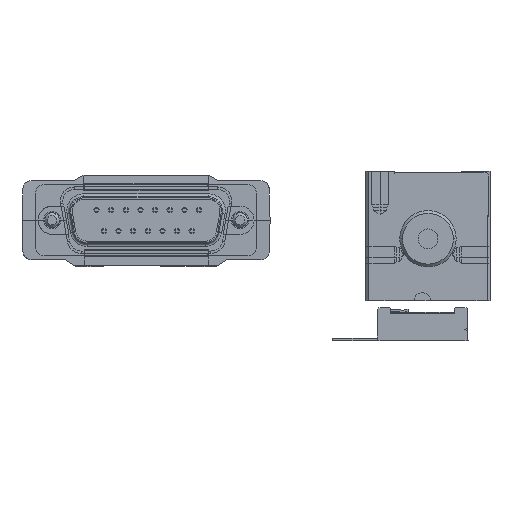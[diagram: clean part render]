
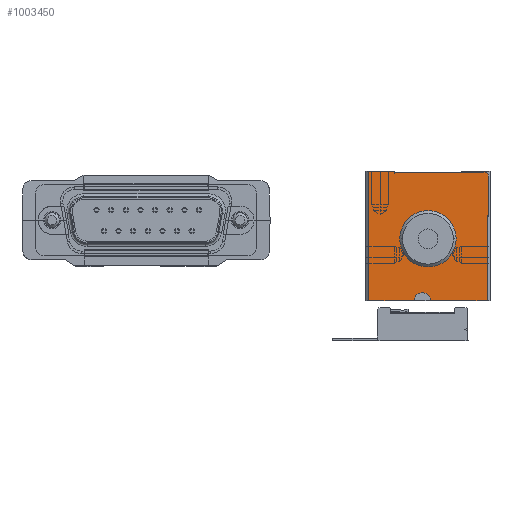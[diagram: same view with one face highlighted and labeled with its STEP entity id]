
A CAD part, front view. The second image highlights one B-rep face of the part: STEP entity #1003450.
In plain terms, the highlighted planar face has unit normal (0, -1, 0) as drawn and (1, 0, 0) by its records, which use the part's own axes.
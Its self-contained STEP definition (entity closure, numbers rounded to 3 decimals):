
#994770=CARTESIAN_POINT('',(40.,22.,0.));
#994780=DIRECTION('',(0.,-1.,0.));
#994790=VECTOR('',#994780,1.);
#994800=LINE('',#994770,#994790);
#994810=CARTESIAN_POINT('',(40.,5.,0.));
#994820=VERTEX_POINT('',#994810);
#994830=CARTESIAN_POINT('',(40.,0.5,0.));
#994840=VERTEX_POINT('',#994830);
#994850=EDGE_CURVE('',#994820,#994840,#994800,.T.);
#997720=CARTESIAN_POINT('',(40.,0.5,-23.));
#997730=VERTEX_POINT('',#997720);
#997760=CARTESIAN_POINT('',(40.,0.,-23.));
#997770=DIRECTION('',(0.,1.,0.));
#997780=VECTOR('',#997770,1.);
#997790=LINE('',#997760,#997780);
#997800=CARTESIAN_POINT('',(40.,8.6,-23.));
#997810=VERTEX_POINT('',#997800);
#997820=EDGE_CURVE('',#997730,#997810,#997790,.T.);
#998040=CARTESIAN_POINT('',(40.,11.4,-23.));
#998050=VERTEX_POINT('',#998040);
#998080=CARTESIAN_POINT('',(40.,21.5,-23.));
#998090=VERTEX_POINT('',#998080);
#998100=EDGE_CURVE('',#998050,#998090,#997790,.T.);
#1000020=CARTESIAN_POINT('',(40.,11.4,0.));
#1000030=DIRECTION('',(0.,0.,1.));
#1000040=VECTOR('',#1000030,1.);
#1000050=LINE('',#1000020,#1000040);
#1000060=CARTESIAN_POINT('',(40.,11.4,-22.8));
#1000070=VERTEX_POINT('',#1000060);
#1000080=EDGE_CURVE('',#998050,#1000070,#1000050,.T.);
#1000750=CARTESIAN_POINT('',(40.,9.8,-22.8));
#1000760=DIRECTION('',(-1.,0.,0.));
#1000770=DIRECTION('',(0.,1.,0.));
#1000780=AXIS2_PLACEMENT_3D('',#1000750,#1000760,#1000770);
#1000790=CIRCLE('',#1000780,1.2);
#1000800=CARTESIAN_POINT('',(40.,8.6,-22.8));
#1000810=VERTEX_POINT('',#1000800);
#1000820=CARTESIAN_POINT('',(40.,9.8,-21.6));
#1000830=VERTEX_POINT('',#1000820);
#1000840=EDGE_CURVE('',#1000810,#1000830,#1000790,.T.);
#1001070=CARTESIAN_POINT('',(40.,0.,-21.6));
#1001080=DIRECTION('',(0.,-1.,0.));
#1001090=VECTOR('',#1001080,1.);
#1001100=LINE('',#1001070,#1001090);
#1001110=CARTESIAN_POINT('',(40.,10.2,-21.6));
#1001120=VERTEX_POINT('',#1001110);
#1001130=EDGE_CURVE('',#1001120,#1000830,#1001100,.T.);
#1001330=CARTESIAN_POINT('',(40.,10.2,-22.8));
#1001340=DIRECTION('',(-1.,0.,0.));
#1001350=DIRECTION('',(0.,1.,0.));
#1001360=AXIS2_PLACEMENT_3D('',#1001330,#1001340,#1001350);
#1001370=CIRCLE('',#1001360,1.2);
#1001380=EDGE_CURVE('',#1001120,#1000070,#1001370,.T.);
#1001510=CARTESIAN_POINT('',(40.,8.6,0.));
#1001520=DIRECTION('',(0.,0.,-1.));
#1001530=VECTOR('',#1001520,1.);
#1001540=LINE('',#1001510,#1001530);
#1001550=EDGE_CURVE('',#1000810,#997810,#1001540,.T.);
#1001660=CARTESIAN_POINT('',(40.,5.846,-7.9));
#1001670=DIRECTION('',(0.,-1.,0.));
#1001680=VECTOR('',#1001670,1.);
#1001690=LINE('',#1001660,#1001680);
#1001700=CARTESIAN_POINT('',(40.,21.8,-7.9));
#1001710=VERTEX_POINT('',#1001700);
#1001720=CARTESIAN_POINT('',(40.,21.5,-7.9));
#1001730=VERTEX_POINT('',#1001720);
#1001740=EDGE_CURVE('',#1001710,#1001730,#1001690,.T.);
#1002470=CARTESIAN_POINT('',(40.,0.1,-0.8))
;
#1002480=DIRECTION('',(1.,-0.,0.));
#1002490=DIRECTION('',(0.,0.,-1.));
#1002500=AXIS2_PLACEMENT_3D('',#1002470,#1002480,#1002490);
#1002510=PLANE('',#1002500);
#1002520=CARTESIAN_POINT('',(40.,20.9,-1.1));
#1002530=DIRECTION('',(1.,0.,0.));
#1002540=DIRECTION('',(0.,-1.,0.));
#1002550=AXIS2_PLACEMENT_3D('',#1002520,#1002530,#1002540);
#1002560=CIRCLE('',#1002550,0.9);
#1002570=CARTESIAN_POINT('',(40.,21.8,-1.1));
#1002580=VERTEX_POINT('',#1002570);
#1002590=CARTESIAN_POINT('',(40.,20.9,-0.2));
#1002600=VERTEX_POINT('',#1002590);
#1002610=EDGE_CURVE('',#1002580,#1002600,#1002560,.T.);
#1002620=ORIENTED_EDGE('',*,*,#1002610,.T.);
#1002630=CARTESIAN_POINT('',(40.,21.8,-0.8));
#1002640=DIRECTION('',(0.,0.,1.));
#1002650=VECTOR('',#1002640,1.);
#1002660=LINE('',#1002630,#1002650);
#1002670=EDGE_CURVE('',#1001710,#1002580,#1002660,.T.);
#1002680=ORIENTED_EDGE('',*,*,#1002670,.T.);
#1002690=ORIENTED_EDGE('',*,*,#1001740,.F.);
#1002700=CARTESIAN_POINT('',(40.,21.5,0.));
#1002710=DIRECTION('',(0.,0.,1.));
#1002720=VECTOR('',#1002710,1.);
#1002730=LINE('',#1002700,#1002720);
#1002740=CARTESIAN_POINT('',(40.,21.5,-8.));
#1002750=VERTEX_POINT('',#1002740);
#1002760=EDGE_CURVE('',#1002750,#1001730,#1002730,.T.);
#1002770=ORIENTED_EDGE('',*,*,#1002760,.T.);
#1002780=CARTESIAN_POINT('',(40.,21.5,-15.5));
#1002790=DIRECTION('',(0.,0.,-1.));
#1002800=VECTOR('',#1002790,1.);
#1002810=LINE('',#1002780,#1002800);
#1002820=EDGE_CURVE('',#1002750,#998090,#1002810,.T.);
#1002830=ORIENTED_EDGE('',*,*,#1002820,.F.);
#1002840=ORIENTED_EDGE('',*,*,#998100,.T.);
#1002850=ORIENTED_EDGE('',*,*,#1000080,.F.);
#1002860=ORIENTED_EDGE('',*,*,#1001380,.T.);
#1002870=ORIENTED_EDGE('',*,*,#1001130,.F.);
#1002880=ORIENTED_EDGE('',*,*,#1000840,.T.);
#1002890=ORIENTED_EDGE('',*,*,#1001550,.F.);
#1002900=ORIENTED_EDGE('',*,*,#997820,.T.);
#1002910=CARTESIAN_POINT('',(40.,0.5,-11.5));
#1002920=DIRECTION('',(0.,0.,-1.));
#1002930=VECTOR('',#1002920,1.);
#1002940=LINE('',#1002910,#1002930);
#1002950=EDGE_CURVE('',#994840,#997730,#1002940,.T.);
#1002960=ORIENTED_EDGE('',*,*,#1002950,.T.);
#1002970=ORIENTED_EDGE('',*,*,#994850,.T.);
#1002980=CARTESIAN_POINT('',(40.,5.,0.));
#1002990=DIRECTION('',(0.,0.,-1.));
#1003000=VECTOR('',#1002990,1.);
#1003010=LINE('',#1002980,#1003000);
#1003020=CARTESIAN_POINT('',(40.,5.,-0.5));
#1003030=VERTEX_POINT('',#1003020);
#1003040=EDGE_CURVE('',#994820,#1003030,#1003010,.T.);
#1003050=ORIENTED_EDGE('',*,*,#1003040,.F.);
#1003060=CARTESIAN_POINT('',(40.,0.,-0.5));
#1003070=DIRECTION('',(0.,-1.,0.));
#1003080=VECTOR('',#1003070,1.);
#1003090=LINE('',#1003060,#1003080);
#1003100=CARTESIAN_POINT('',(40.,5.05,-0.5));
#1003110=VERTEX_POINT('',#1003100);
#1003120=EDGE_CURVE('',#1003110,#1003030,#1003090,.T.);
#1003130=ORIENTED_EDGE('',*,*,#1003120,.T.);
#1003140=CARTESIAN_POINT('',(40.,5.05,-0.8));
#1003150=DIRECTION('',(0.,0.,1.));
#1003160=VECTOR('',#1003150,1.);
#1003170=LINE('',#1003140,#1003160);
#1003180=CARTESIAN_POINT('',(40.,5.05,-0.2));
#1003190=VERTEX_POINT('',#1003180);
#1003200=EDGE_CURVE('',#1003110,#1003190,#1003170,.T.);
#1003210=ORIENTED_EDGE('',*,*,#1003200,.F.);
#1003220=CARTESIAN_POINT('',(40.,5.646,-0.2));
#1003230=DIRECTION('',(0.,1.,0.));
#1003240=VECTOR('',#1003230,1.);
#1003250=LINE('',#1003220,#1003240);
#1003260=EDGE_CURVE('',#1003190,#1002600,#1003250,.T.);
#1003270=ORIENTED_EDGE('',*,*,#1003260,.F.);
#1003280=EDGE_LOOP('',(#1003270,#1003210,#1003130,#1003050,#1002970,
#1002960,#1002900,#1002890,#1002880,#1002870,#1002860,#1002850,#1002840,
#1002830,#1002770,#1002690,#1002680,#1002620));
#1003290=FACE_OUTER_BOUND('',#1003280,.T.);
#1003300=CARTESIAN_POINT('',(40.,11.,-12.));
#1003310=DIRECTION('',(1.,0.,0.));
#1003320=DIRECTION('',(0.,1.,0.));
#1003330=AXIS2_PLACEMENT_3D('',#1003300,#1003310,#1003320);
#1003340=CIRCLE('',#1003330,5.);
#1003350=CARTESIAN_POINT('',(40.,16.,-12.));
#1003360=VERTEX_POINT('',#1003350);
#1003370=CARTESIAN_POINT('',(40.,6.,-12.));
#1003380=VERTEX_POINT('',#1003370);
#1003390=EDGE_CURVE('',#1003360,#1003380,#1003340,.T.);
#1003400=ORIENTED_EDGE('',*,*,#1003390,.F.);
#1003410=EDGE_CURVE('',#1003380,#1003360,#1003340,.T.);
#1003420=ORIENTED_EDGE('',*,*,#1003410,.F.);
#1003430=EDGE_LOOP('',(#1003420,#1003400));
#1003440=FACE_BOUND('',#1003430,.T.);
#1003450=ADVANCED_FACE('',(#1003290,#1003440),#1002510,.T.);
